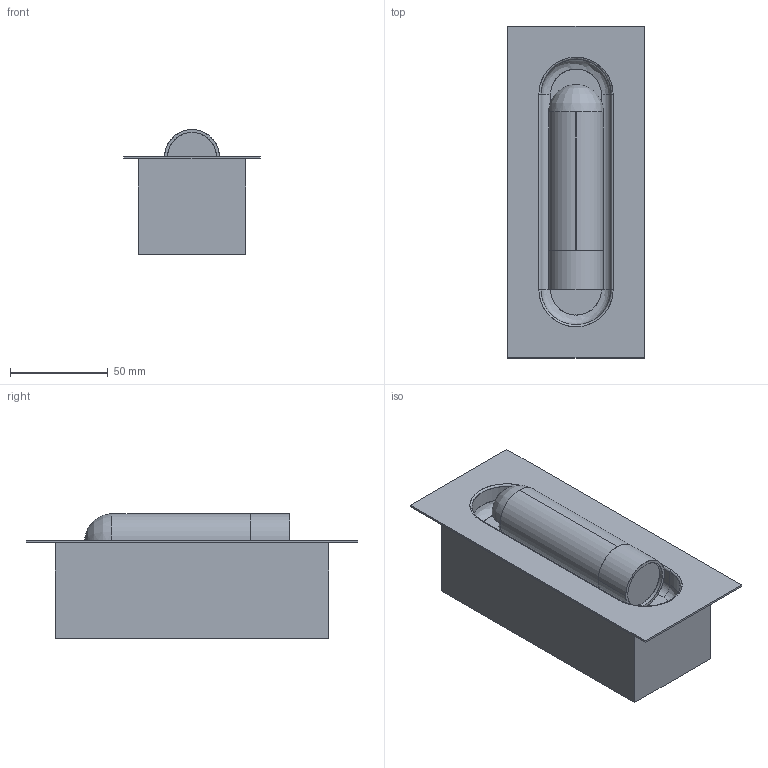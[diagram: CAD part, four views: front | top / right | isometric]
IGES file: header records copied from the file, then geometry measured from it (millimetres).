
Start section: SolidWorks IGES file using analytic representation for surfaces
Global section: file name: F:\燠隴矨\3D\2026-4\OmniLux Reading Lamp.IGS,15; native system: HSolidWorks 2022; preprocessor: SolidWorks 2022; author: MyPC; date: 260414.175756; units: millimetre
Bounding box: 70 x 170 x 64 mm (x, y, z)
Surface area: 64818.3 mm2 (no closed solid volume)
Topology: 0 solids, 0 shells, 39 faces, 628 edges, 625 vertices
Faces by surface type: bspline 23, revolution 16
